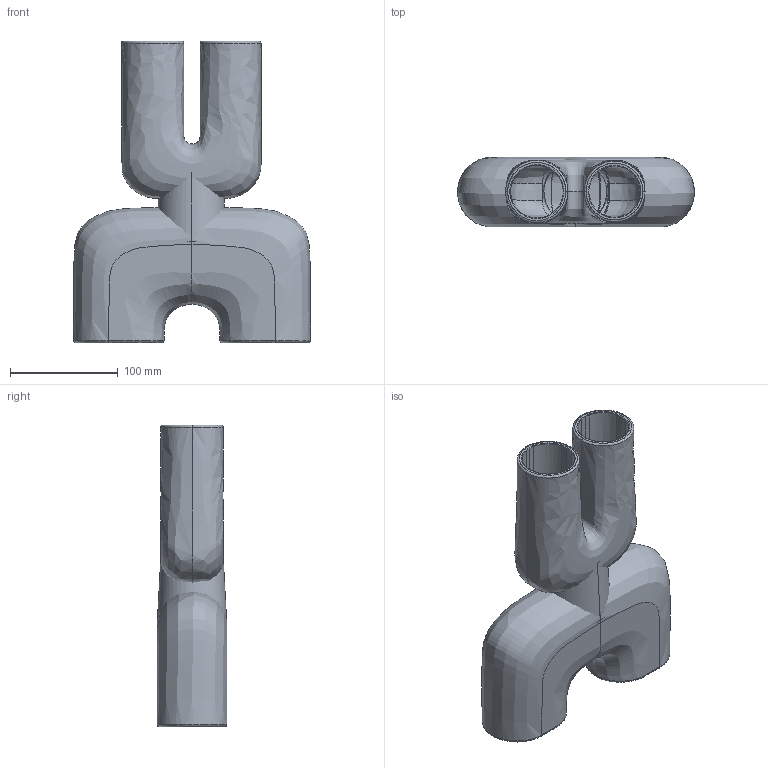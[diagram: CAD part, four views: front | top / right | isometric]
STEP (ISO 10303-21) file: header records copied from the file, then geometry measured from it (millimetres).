
FILE_DESCRIPTION(/* description */ (''),/* implementation_level */ '2;1');
FILE_NAME(/* name */ 'Cobra Mini Double',/* time_stamp */ '2020-07-07T11:21:12+02:00',/* author */ (''),/* organization */ (''),/* preprocessor_version */ 'ST-DEVELOPER v15',/* originating_system */ '',/* authorisation */ '');
FILE_SCHEMA (('AUTOMOTIVE_DESIGN'));
Products named in the file (1): Document
Bounding box: 220.07 x 64.8 x 280.01 mm (x, y, z)
Volume: 1378150.5 mm3; surface area: 256513 mm2
Topology: 1 solids, 7 shells, 141 faces, 316 edges, 182 vertices
Faces by surface type: bspline 137, plane 4
Entity records: 117409 total; most frequent: CARTESIAN_POINT 115747, ORIENTED_EDGE 596, EDGE_CURVE 312, VERTEX_POINT 175, EDGE_LOOP 143, ADVANCED_FACE 141, FACE_OUTER_BOUND 141, DIRECTION 12
